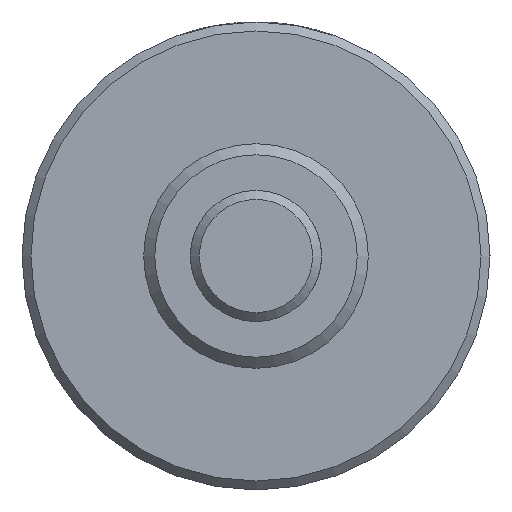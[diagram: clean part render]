
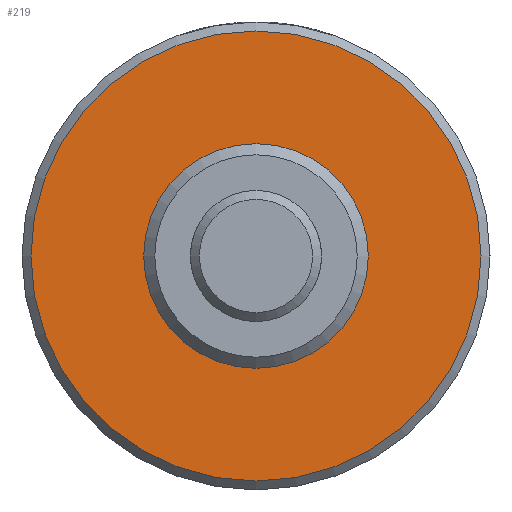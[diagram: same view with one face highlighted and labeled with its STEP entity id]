
A CAD part, left-side view. The second image highlights one B-rep face of the part: STEP entity #219.
In plain terms, the highlighted planar face has unit normal (-1, 0, 0).
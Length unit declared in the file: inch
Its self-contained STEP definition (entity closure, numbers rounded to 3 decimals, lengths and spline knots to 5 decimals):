
#219 = ADVANCED_FACE( '', ( #452, #453 ), #454, .F. );
#452 = FACE_OUTER_BOUND( '', #672, .T. );
#453 = FACE_BOUND( '', #673, .T. );
#454 = PLANE( '', #674 );
#672 = EDGE_LOOP( '', ( #1016 ) );
#673 = EDGE_LOOP( '', ( #1017 ) );
#674 = AXIS2_PLACEMENT_3D( '', #1018, #1019, #1020 );
#1016 = ORIENTED_EDGE( '', *, *, #1057, .F. );
#1017 = ORIENTED_EDGE( '', *, *, #1098, .T. );
#1018 = CARTESIAN_POINT( '', ( 0.625, 0.375, 0. ) );
#1019 = DIRECTION( '', ( 1., 0., 0. ) );
#1020 = DIRECTION( '', ( 0., 0., -1. ) );
#1057 = EDGE_CURVE( '', #1183, #1183, #1184, .T. );
#1098 = EDGE_CURVE( '', #1251, #1251, #1252, .T. );
#1183 = VERTEX_POINT( '', #1368 );
#1184 = CIRCLE( '', #1369, 0.7515 );
#1251 = VERTEX_POINT( '', #1516 );
#1252 = CIRCLE( '', #1517, 0.375 );
#1368 = CARTESIAN_POINT( '', ( 0.625, 0., -0.7515 ) );
#1369 = AXIS2_PLACEMENT_3D( '', #1729, #1730, #1731 );
#1516 = CARTESIAN_POINT( '', ( 0.625, 0., -0.375 ) );
#1517 = AXIS2_PLACEMENT_3D( '', #1795, #1796, #1797 );
#1729 = CARTESIAN_POINT( '', ( 0.625, 0., 0. ) );
#1730 = DIRECTION( '', ( 1., 0., 0. ) );
#1731 = DIRECTION( '', ( 0., 0., -1. ) );
#1795 = CARTESIAN_POINT( '', ( 0.625, 0., 0. ) );
#1796 = DIRECTION( '', ( 1., 0., 0. ) );
#1797 = DIRECTION( '', ( 0., 0., -1. ) );
